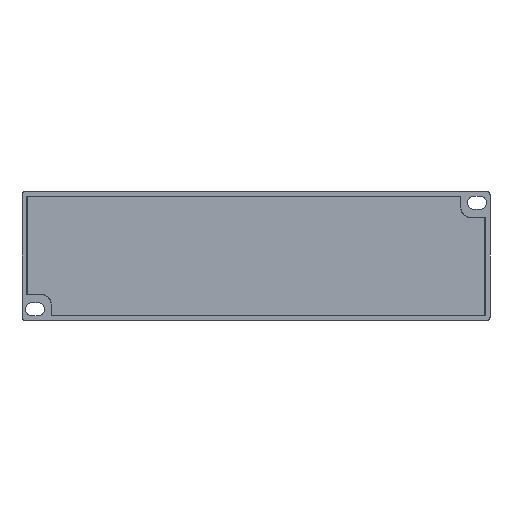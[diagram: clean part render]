
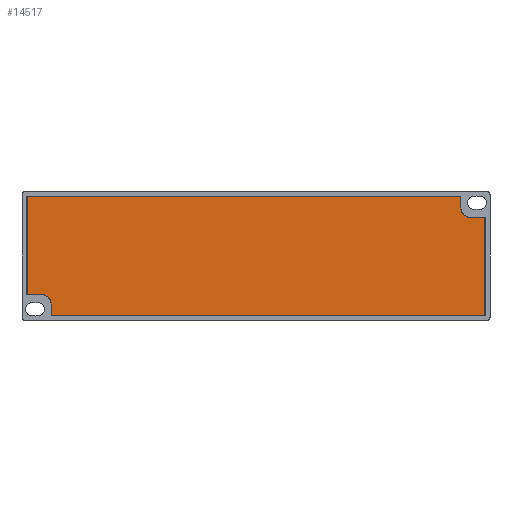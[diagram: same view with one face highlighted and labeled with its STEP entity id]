
A CAD part, front view. The second image highlights one B-rep face of the part: STEP entity #14517.
In plain terms, the highlighted free-form (B-spline) face has degree [1, 1] with [2, 2] control points.
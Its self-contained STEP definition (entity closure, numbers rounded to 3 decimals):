
#14352=CARTESIAN_POINT('',(-70.4,-0.,-231.6));
#14353=VERTEX_POINT('',#14352);
#14359=CARTESIAN_POINT('',(63.386,-0.,-231.6));
#14360=VERTEX_POINT('',#14359);
#14361=CARTESIAN_POINT('',(-70.4,-0.,-231.6));
#14362=CARTESIAN_POINT('',(63.386,-0.,-231.6));
#14363=B_SPLINE_CURVE_WITH_KNOTS('',1,(#14361,#14362),.UNSPECIFIED.,.F.,.F.,(2,2),(0.,133.786),.UNSPECIFIED.);
#14364=EDGE_CURVE('',#14353,#14360,#14363,.T.);
#14385=CARTESIAN_POINT('',(70.4,-0.,-268.4));
#14386=VERTEX_POINT('',#14385);
#14387=CARTESIAN_POINT('',(-63.386,-0.,-268.4));
#14388=VERTEX_POINT('',#14387);
#14389=CARTESIAN_POINT('',(70.4,-0.,-268.4));
#14390=CARTESIAN_POINT('',(-63.386,-0.,-268.4));
#14391=B_SPLINE_CURVE_WITH_KNOTS('',1,(#14389,#14390),.UNSPECIFIED.,.F.,.F.,(2,2),(0.,133.786),.UNSPECIFIED.);
#14392=EDGE_CURVE('',#14386,#14388,#14391,.T.);
#14414=CARTESIAN_POINT('',(-70.9,-0.,-231.6));
#14415=CARTESIAN_POINT('',(70.9,-0.,-231.6));
#14416=CARTESIAN_POINT('',(-70.9,-0.,-268.4));
#14417=CARTESIAN_POINT('',(70.9,-0.,-268.4));
#14418=B_SPLINE_SURFACE_WITH_KNOTS('',1,1,((#14414,#14415),(#14416,#14417)),.UNSPECIFIED.,.F.,.F.,.U.,(2,2),(2,2),(-18.4,18.4),(-10.9,130.9),.UNSPECIFIED.);
#14419=ORIENTED_EDGE('',*,*,#14364,.F.);
#14420=CARTESIAN_POINT('',(-70.9,-0.,-232.1));
#14421=VERTEX_POINT('',#14420);
#14422=CARTESIAN_POINT('',(-70.9,-0.,-232.1));
#14423=CARTESIAN_POINT('',(-70.9,-0.,-231.893));
#14424=CARTESIAN_POINT('',(-70.754,-0.,-231.747));
#14425=CARTESIAN_POINT('',(-70.607,-0.,-231.6));
#14426=CARTESIAN_POINT('',(-70.4,-0.,-231.6));
#14427=(BOUNDED_CURVE()
B_SPLINE_CURVE(2,(#14422,#14423,#14424,#14425,#14426),.UNSPECIFIED.,.F.,.F.)
B_SPLINE_CURVE_WITH_KNOTS((3,2,3),(90.,135.,180.),.UNSPECIFIED.)
CURVE()
GEOMETRIC_REPRESENTATION_ITEM()
RATIONAL_B_SPLINE_CURVE((1.,0.924,1.,0.924,1.))
REPRESENTATION_ITEM(''));
#14428=EDGE_CURVE('',#14421,#14353,#14427,.T.);
#14429=ORIENTED_EDGE('',*,*,#14428,.F.);
#14430=CARTESIAN_POINT('',(-70.9,-0.,-261.886));
#14431=VERTEX_POINT('',#14430);
#14432=CARTESIAN_POINT('',(-70.9,-0.,-261.886));
#14433=CARTESIAN_POINT('',(-70.9,-0.,-232.1));
#14434=B_SPLINE_CURVE_WITH_KNOTS('',1,(#14432,#14433),.UNSPECIFIED.,.F.,.F.,(2,2),(0.,29.786),.UNSPECIFIED.);
#14435=EDGE_CURVE('',#14431,#14421,#14434,.T.);
#14436=ORIENTED_EDGE('',*,*,#14435,.F.);
#14437=CARTESIAN_POINT('',(-66.5,-0.,-261.886));
#14438=VERTEX_POINT('',#14437);
#14439=CARTESIAN_POINT('',(-66.5,-0.,-261.886));
#14440=CARTESIAN_POINT('',(-70.9,-0.,-261.886));
#14441=B_SPLINE_CURVE_WITH_KNOTS('',1,(#14439,#14440),.UNSPECIFIED.,.F.,.F.,(2,2),(0.,4.4),.UNSPECIFIED.);
#14442=EDGE_CURVE('',#14438,#14431,#14441,.T.);
#14443=ORIENTED_EDGE('',*,*,#14442,.F.);
#14444=CARTESIAN_POINT('',(-63.985,-0.,-263.165));
#14445=VERTEX_POINT('',#14444);
#14446=CARTESIAN_POINT('',(-63.985,-0.,-263.165));
#14447=CARTESIAN_POINT('',(-64.563,-0.,-262.367));
#14448=CARTESIAN_POINT('',(-65.525,0.,-261.886));
#14449=CARTESIAN_POINT('',(-66.5,-0.,-261.886));
#14450=B_SPLINE_CURVE_WITH_KNOTS('',3,(#14446,#14447,#14448,#14449),.UNSPECIFIED.,.F.,.F.,(4,4),(0.,1.),.UNSPECIFIED.);
#14451=EDGE_CURVE('',#14445,#14438,#14450,.T.);
#14452=ORIENTED_EDGE('',*,*,#14451,.F.);
#14453=CARTESIAN_POINT('',(-63.386,-0.,-265.));
#14454=VERTEX_POINT('',#14453);
#14455=CARTESIAN_POINT('',(-63.386,-0.,-265.));
#14456=CARTESIAN_POINT('',(-63.386,-0.,-264.343));
#14457=CARTESIAN_POINT('',(-63.603,0.,-263.692));
#14458=CARTESIAN_POINT('',(-63.985,-0.,-263.165));
#14459=B_SPLINE_CURVE_WITH_KNOTS('',3,(#14455,#14456,#14457,#14458),.UNSPECIFIED.,.F.,.F.,(4,4),(0.,1.),.UNSPECIFIED.);
#14460=EDGE_CURVE('',#14454,#14445,#14459,.T.);
#14461=ORIENTED_EDGE('',*,*,#14460,.F.);
#14462=CARTESIAN_POINT('',(-63.386,-0.,-268.4));
#14463=CARTESIAN_POINT('',(-63.386,-0.,-265.));
#14464=B_SPLINE_CURVE_WITH_KNOTS('',1,(#14462,#14463),.UNSPECIFIED.,.F.,.F.,(2,2),(0.,3.4),.UNSPECIFIED.);
#14465=EDGE_CURVE('',#14388,#14454,#14464,.T.);
#14466=ORIENTED_EDGE('',*,*,#14465,.F.);
#14467=ORIENTED_EDGE('',*,*,#14392,.F.);
#14468=CARTESIAN_POINT('',(70.9,-0.,-267.9));
#14469=VERTEX_POINT('',#14468);
#14470=CARTESIAN_POINT('',(70.9,-0.,-267.9));
#14471=CARTESIAN_POINT('',(70.9,-0.,-268.107));
#14472=CARTESIAN_POINT('',(70.754,-0.,-268.253));
#14473=CARTESIAN_POINT('',(70.607,-0.,-268.4));
#14474=CARTESIAN_POINT('',(70.4,-0.,-268.4));
#14475=(BOUNDED_CURVE()
B_SPLINE_CURVE(2,(#14470,#14471,#14472,#14473,#14474),.UNSPECIFIED.,.F.,.F.)
B_SPLINE_CURVE_WITH_KNOTS((3,2,3),(270.,315.,360.),.UNSPECIFIED.)
CURVE()
GEOMETRIC_REPRESENTATION_ITEM()
RATIONAL_B_SPLINE_CURVE((1.,0.924,1.,0.924,1.))
REPRESENTATION_ITEM(''));
#14476=EDGE_CURVE('',#14469,#14386,#14475,.T.);
#14477=ORIENTED_EDGE('',*,*,#14476,.F.);
#14478=CARTESIAN_POINT('',(70.9,-0.,-238.114));
#14479=VERTEX_POINT('',#14478);
#14480=CARTESIAN_POINT('',(70.9,-0.,-238.114));
#14481=CARTESIAN_POINT('',(70.9,-0.,-267.9));
#14482=B_SPLINE_CURVE_WITH_KNOTS('',1,(#14480,#14481),.UNSPECIFIED.,.F.,.F.,(2,2),(0.,29.786),.UNSPECIFIED.);
#14483=EDGE_CURVE('',#14479,#14469,#14482,.T.);
#14484=ORIENTED_EDGE('',*,*,#14483,.F.);
#14485=CARTESIAN_POINT('',(66.5,-0.,-238.114));
#14486=VERTEX_POINT('',#14485);
#14487=CARTESIAN_POINT('',(66.5,-0.,-238.114));
#14488=CARTESIAN_POINT('',(70.9,-0.,-238.114));
#14489=B_SPLINE_CURVE_WITH_KNOTS('',1,(#14487,#14488),.UNSPECIFIED.,.F.,.F.,(2,2),(0.,4.4),.UNSPECIFIED.);
#14490=EDGE_CURVE('',#14486,#14479,#14489,.T.);
#14491=ORIENTED_EDGE('',*,*,#14490,.F.);
#14492=CARTESIAN_POINT('',(63.985,-0.,-236.835));
#14493=VERTEX_POINT('',#14492);
#14494=CARTESIAN_POINT('',(63.985,-0.,-236.835));
#14495=CARTESIAN_POINT('',(64.563,0.,-237.633));
#14496=CARTESIAN_POINT('',(65.525,-0.,-238.114));
#14497=CARTESIAN_POINT('',(66.5,-0.,-238.114));
#14498=B_SPLINE_CURVE_WITH_KNOTS('',3,(#14494,#14495,#14496,#14497),.UNSPECIFIED.,.F.,.F.,(4,4),(0.,1.),.UNSPECIFIED.);
#14499=EDGE_CURVE('',#14493,#14486,#14498,.T.);
#14500=ORIENTED_EDGE('',*,*,#14499,.F.);
#14501=CARTESIAN_POINT('',(63.386,-0.,-235.));
#14502=VERTEX_POINT('',#14501);
#14503=CARTESIAN_POINT('',(63.386,-0.,-235.));
#14504=CARTESIAN_POINT('',(63.386,0.,-235.657));
#14505=CARTESIAN_POINT('',(63.603,-0.,-236.308));
#14506=CARTESIAN_POINT('',(63.985,-0.,-236.835));
#14507=B_SPLINE_CURVE_WITH_KNOTS('',3,(#14503,#14504,#14505,#14506),.UNSPECIFIED.,.F.,.F.,(4,4),(0.,1.),.UNSPECIFIED.);
#14508=EDGE_CURVE('',#14502,#14493,#14507,.T.);
#14509=ORIENTED_EDGE('',*,*,#14508,.F.);
#14510=CARTESIAN_POINT('',(63.386,-0.,-231.6));
#14511=CARTESIAN_POINT('',(63.386,-0.,-235.));
#14512=B_SPLINE_CURVE_WITH_KNOTS('',1,(#14510,#14511),.UNSPECIFIED.,.F.,.F.,(2,2),(0.,3.4),.UNSPECIFIED.);
#14513=EDGE_CURVE('',#14360,#14502,#14512,.T.);
#14514=ORIENTED_EDGE('',*,*,#14513,.F.);
#14515=EDGE_LOOP('',(#14419,#14429,#14436,#14443,#14452,#14461,#14466,#14467,#14477,#14484,#14491,#14500,#14509,#14514));
#14516=FACE_BOUND('',#14515,.T.);
#14517=ADVANCED_FACE('',(#14516),#14418,.T.);
